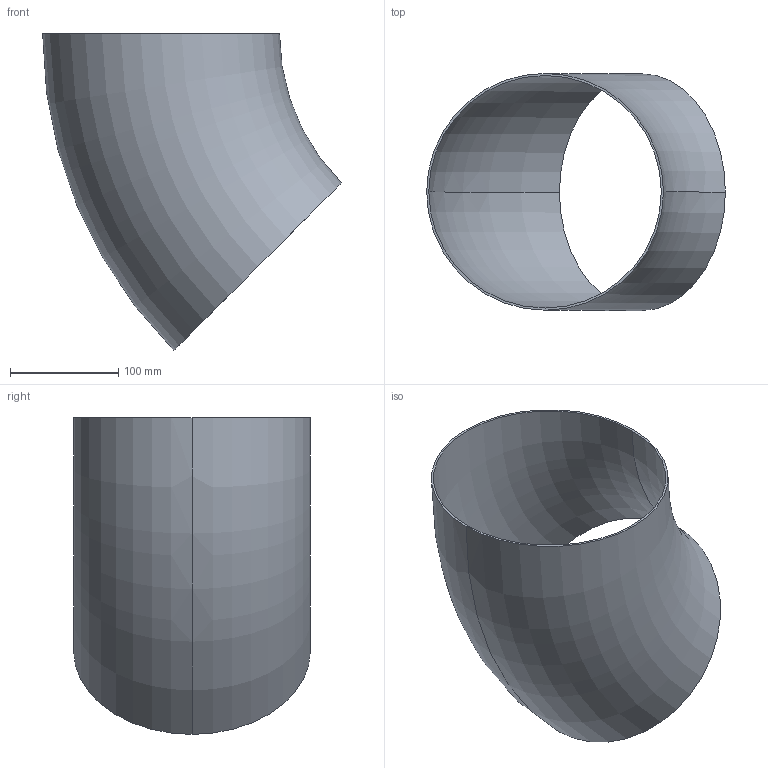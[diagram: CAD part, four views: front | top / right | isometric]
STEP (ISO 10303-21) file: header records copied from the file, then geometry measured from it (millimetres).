
FILE_DESCRIPTION (( 'STEP AP203' ), '1' );
FILE_NAME ('3D_R1650_219.1x2_17351850.STEP', '2024-08-03T09:18:31', ( '' ), ( '' ), 'SwSTEP 2.0', 'SolidWorks 2024', '' );
FILE_SCHEMA (( 'CONFIG_CONTROL_DESIGN' ));
Length unit declared in the file: millimetre
Products named in the file (1): 3D_R1650_219.1x2_17351850
Bounding box: 276.35 x 219.1 x 293.13 mm (x, y, z)
Volume: 326760.4 mm3; surface area: 329488.6 mm2
Topology: 1 solids, 1 shells, 6 faces, 12 edges, 8 vertices
Faces by surface type: torus 4, plane 2
Entity records: 249 total; most frequent: DIRECTION 38, CARTESIAN_POINT 27, ORIENTED_EDGE 24, AXIS2_PLACEMENT_3D 19, CIRCLE 12, EDGE_CURVE 12, VERTEX_POINT 8, PERSON_AND_ORGANIZATION 8
